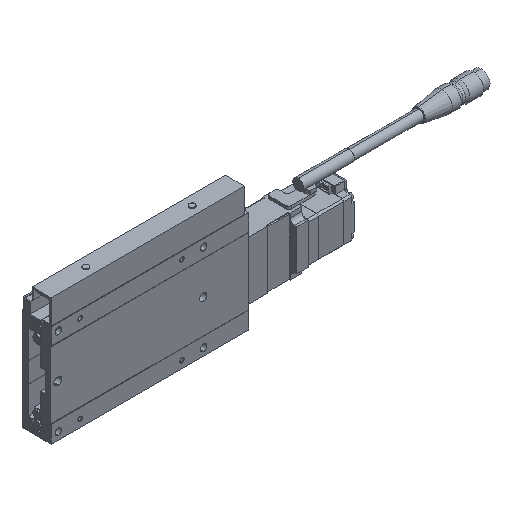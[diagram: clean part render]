
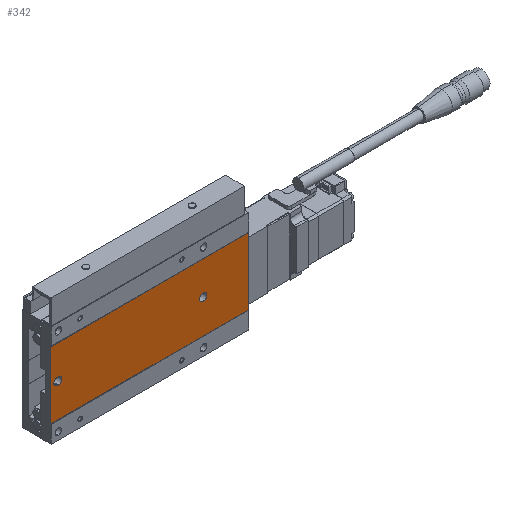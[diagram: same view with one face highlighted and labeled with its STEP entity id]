
A CAD part, isometric view. The second image highlights one B-rep face of the part: STEP entity #342.
In plain terms, the highlighted planar face has unit normal (0, -1, 0).
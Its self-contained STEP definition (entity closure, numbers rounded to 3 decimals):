
#342=ADVANCED_FACE('',(#1011,#1012,#1013),#1014,.F.);
#1011=FACE_BOUND('',#2381,.T.);
#1012=FACE_OUTER_BOUND('',#2382,.T.);
#1013=FACE_BOUND('',#2383,.T.);
#1014=PLANE('',#2384);
#2381=EDGE_LOOP('',(#3908,#3909,#3910,#3911));
#2382=EDGE_LOOP('',(#3912,#3913,#3914,#3915));
#2383=EDGE_LOOP('',(#3916,#3917,#3918));
#2384=AXIS2_PLACEMENT_3D('',#3919,#3920,#3921);
#3908=ORIENTED_EDGE('',*,*,#8938,.F.);
#3909=ORIENTED_EDGE('',*,*,#8939,.F.);
#3910=ORIENTED_EDGE('',*,*,#8940,.F.);
#3911=ORIENTED_EDGE('',*,*,#8941,.F.);
#3912=ORIENTED_EDGE('',*,*,#8923,.T.);
#3913=ORIENTED_EDGE('',*,*,#8942,.F.);
#3914=ORIENTED_EDGE('',*,*,#8943,.F.);
#3915=ORIENTED_EDGE('',*,*,#8944,.T.);
#3916=ORIENTED_EDGE('',*,*,#8823,.F.);
#3917=ORIENTED_EDGE('',*,*,#8822,.F.);
#3918=ORIENTED_EDGE('',*,*,#8945,.F.);
#3919=CARTESIAN_POINT('',(81.0,0.3,23.1));
#3920=DIRECTION('',(0.0,1.0,0.));
#3921=DIRECTION('',(1.0,0.0,0.0));
#8822=EDGE_CURVE('',#10431,#10433,#10434,.F.);
#8823=EDGE_CURVE('',#10433,#10427,#10435,.F.);
#8923=EDGE_CURVE('',#10622,#10620,#10623,.T.);
#8938=EDGE_CURVE('',#10650,#10651,#10652,.F.);
#8939=EDGE_CURVE('',#10653,#10650,#10654,.T.);
#8940=EDGE_CURVE('',#10655,#10653,#10656,.F.);
#8941=EDGE_CURVE('',#10651,#10655,#10657,.T.);
#8942=EDGE_CURVE('',#10658,#10620,#10659,.T.);
#8943=EDGE_CURVE('',#10660,#10658,#10661,.T.);
#8944=EDGE_CURVE('',#10660,#10622,#10662,.T.);
#8945=EDGE_CURVE('',#10427,#10431,#10663,.F.);
#10427=VERTEX_POINT('',#13052);
#10431=VERTEX_POINT('',#13057);
#10433=VERTEX_POINT('',#13060);
#10434=CIRCLE('',#13061,2.5);
#10435=CIRCLE('',#13062,2.5);
#10620=VERTEX_POINT('',#13303);
#10622=VERTEX_POINT('',#13306);
#10623=LINE('',#13307,#13308);
#10650=VERTEX_POINT('',#13348);
#10651=VERTEX_POINT('',#13349);
#10652=CIRCLE('',#13350,2.5);
#10653=VERTEX_POINT('',#13351);
#10654=LINE('',#13352,#13353);
#10655=VERTEX_POINT('',#13354);
#10656=CIRCLE('',#13355,2.5);
#10657=LINE('',#13356,#13357);
#10658=VERTEX_POINT('',#13358);
#10659=LINE('',#13359,#13360);
#10660=VERTEX_POINT('',#13361);
#10661=LINE('',#13362,#13363);
#10662=LINE('',#13364,#13365);
#10663=CIRCLE('',#13366,2.5);
#13052=CARTESIAN_POINT('',(47.5,0.3,0.));
#13057=CARTESIAN_POINT('',(52.5,0.3,0.));
#13060=CARTESIAN_POINT('',(50.0,0.3,2.5));
#13061=AXIS2_PLACEMENT_3D('',#16771,#16772,#16773);
#13062=AXIS2_PLACEMENT_3D('',#16774,#16775,#16776);
#13303=CARTESIAN_POINT('',(-55.0,0.3,-23.1));
#13306=CARTESIAN_POINT('',(-55.0,0.3,23.1));
#13307=CARTESIAN_POINT('',(-55.0,0.3,23.1));
#13308=VECTOR('',#16960,1000.0);
#13348=CARTESIAN_POINT('',(-50.25,0.3,2.5));
#13349=CARTESIAN_POINT('',(-50.25,0.3,-2.5));
#13350=AXIS2_PLACEMENT_3D('',#16977,#16978,#16979);
#13351=CARTESIAN_POINT('',(-49.75,0.3,2.5));
#13352=CARTESIAN_POINT('',(81.0,0.3,2.5));
#13353=VECTOR('',#16980,1000.0);
#13354=CARTESIAN_POINT('',(-49.75,0.3,-2.5));
#13355=AXIS2_PLACEMENT_3D('',#16981,#16982,#16983);
#13356=CARTESIAN_POINT('',(81.0,0.3,-2.5));
#13357=VECTOR('',#16984,1000.0);
#13358=CARTESIAN_POINT('',(81.0,0.3,-23.1));
#13359=CARTESIAN_POINT('',(81.0,0.3,-23.1));
#13360=VECTOR('',#16985,1000.0);
#13361=CARTESIAN_POINT('',(81.0,0.3,23.1));
#13362=CARTESIAN_POINT('',(81.0,0.3,23.1));
#13363=VECTOR('',#16986,1000.0);
#13364=CARTESIAN_POINT('',(81.0,0.3,23.1));
#13365=VECTOR('',#16987,1000.0);
#13366=AXIS2_PLACEMENT_3D('',#16988,#16989,#16990);
#16771=CARTESIAN_POINT('',(50.0,0.3,0.0));
#16772=DIRECTION('',(0.0,1.0,0.));
#16773=DIRECTION('',(0.0,0.,1.0));
#16774=CARTESIAN_POINT('',(50.0,0.3,0.0));
#16775=DIRECTION('',(0.0,1.0,0.));
#16776=DIRECTION('',(0.0,0.,1.0));
#16960=DIRECTION('',(0.0,0.,-1.0));
#16977=CARTESIAN_POINT('',(-50.25,0.3,0.));
#16978=DIRECTION('',(0.0,1.0,0.));
#16979=DIRECTION('',(0.0,0.,1.0));
#16980=DIRECTION('',(-1.0,0.0,0.0));
#16981=CARTESIAN_POINT('',(-49.75,0.3,0.));
#16982=DIRECTION('',(0.0,1.0,0.));
#16983=DIRECTION('',(0.0,0.,1.0));
#16984=DIRECTION('',(1.0,0.0,0.0));
#16985=DIRECTION('',(-1.0,0.0,0.0));
#16986=DIRECTION('',(0.0,0.,-1.0));
#16987=DIRECTION('',(-1.0,0.0,0.0));
#16988=CARTESIAN_POINT('',(50.0,0.3,0.0));
#16989=DIRECTION('',(0.0,1.0,0.));
#16990=DIRECTION('',(0.0,0.,1.0));
